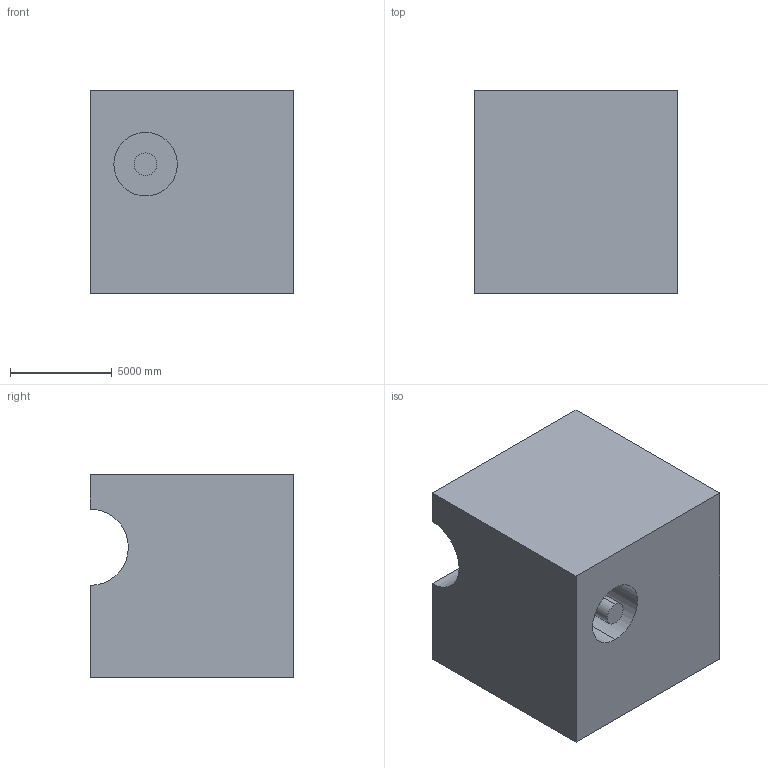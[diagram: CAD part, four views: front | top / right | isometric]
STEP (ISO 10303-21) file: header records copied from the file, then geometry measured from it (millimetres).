
FILE_DESCRIPTION (( 'STEP AP203' ), '1' );
FILE_NAME ('1199.STEP', '2022-08-18T13:09:03', ( 'user' ), ( '' ), 'SwSTEP 2.0', 'SolidWorks 2021', '' );
FILE_SCHEMA (( 'CONFIG_CONTROL_DESIGN' ));
Length unit declared in the file: centimetre
Products named in the file (1): 1199
Bounding box: 10000 x 10000 x 10000 mm (x, y, z)
Volume: 928250992585.1 mm3; surface area: 643781683.9 mm2
Topology: 1 solids, 1 shells, 14 faces, 30 edges, 20 vertices
Faces by surface type: plane 9, cylinder 5
Entity records: 461 total; most frequent: DIRECTION 70, CARTESIAN_POINT 65, ORIENTED_EDGE 60, EDGE_CURVE 30, AXIS2_PLACEMENT_3D 25, VECTOR 20, LINE 20, VERTEX_POINT 20
